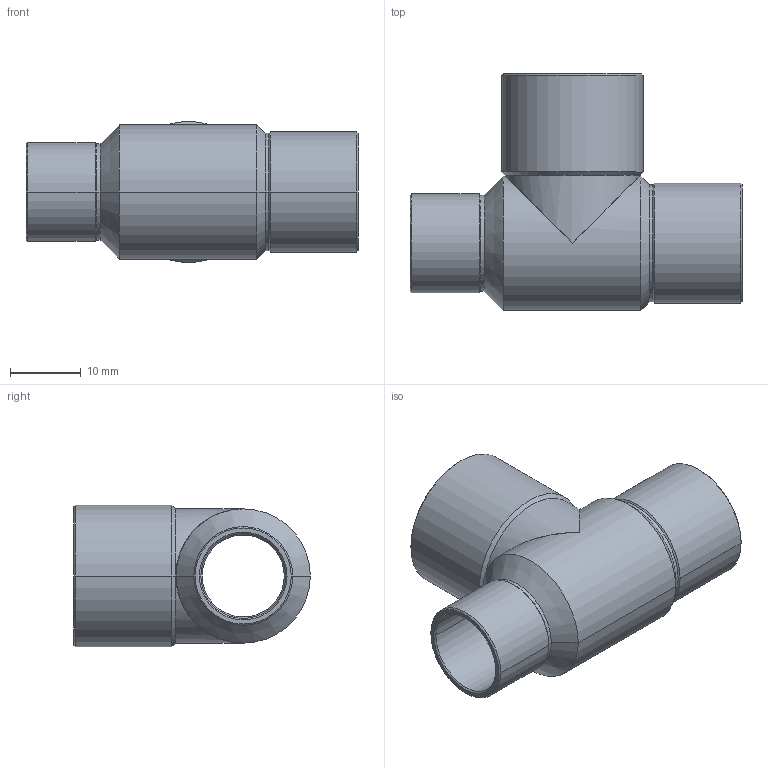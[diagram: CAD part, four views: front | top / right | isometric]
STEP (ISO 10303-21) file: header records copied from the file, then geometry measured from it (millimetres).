
FILE_DESCRIPTION((''),'2;1');
FILE_NAME('P:\Bouwmaten\z-maattekeningen 3D\5000\5130\5130151812.stp','2005-10-26T11:52:54',('Kris'),(''),'Autodesk Inventor 8','Autodesk Inventor 8','');
FILE_SCHEMA(('AUTOMOTIVE_DESIGN { 1 0 10303 214 1 1 1 1 }'));
Length unit declared in the file: millimetre
Products named in the file (1): 5130151812
Bounding box: 47 x 33.5 x 20 mm (x, y, z)
Volume: 3198.3 mm3; surface area: 6563.4 mm2
Topology: 1 solids, 1 shells, 75 faces, 169 edges, 87 vertices
Faces by surface type: cylinder 34, cone 34, bspline 4, plane 3
Entity records: 2440 total; most frequent: CARTESIAN_POINT 764, DIRECTION 387, ORIENTED_EDGE 322, AXIS2_PLACEMENT_3D 162, EDGE_CURVE 161, VERTEX_POINT 87, EDGE_LOOP 78, FACE_OUTER_BOUND 75
